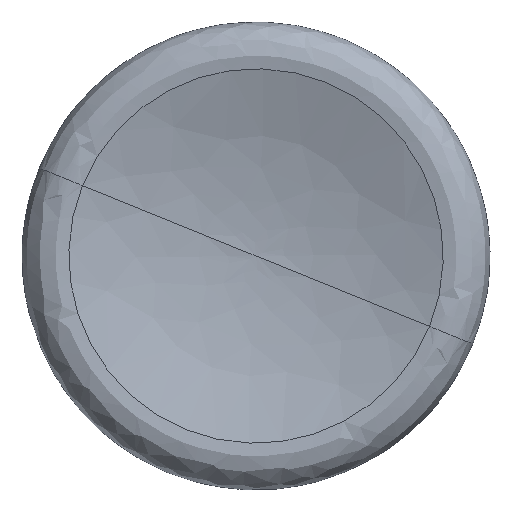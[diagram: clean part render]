
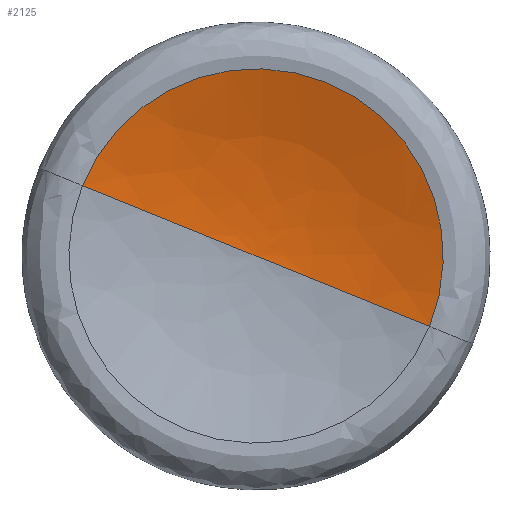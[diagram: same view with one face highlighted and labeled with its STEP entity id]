
A CAD part, front view. The second image highlights one B-rep face of the part: STEP entity #2125.
In plain terms, the highlighted free-form (B-spline) face has degree [3, 3] with [4, 4] control points.
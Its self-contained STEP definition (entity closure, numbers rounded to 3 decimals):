
#19 = CARTESIAN_POINT ( 'NONE',  ( -111.194, -124.764, 45.12 ) ) ;
#272 =( BOUNDED_SURFACE ( )  B_SPLINE_SURFACE ( 3, 3, ( 
 ( #2829, #1080, #2603, #2552 ),
 ( #3001, #2917, #3688, #2534 ),
 ( #1169, #1180, #2798, #2845 ),
 ( #1268, #1297, #3029, #3048 ) ),
 .UNSPECIFIED., .F., .F., .F. ) 
 B_SPLINE_SURFACE_WITH_KNOTS ( ( 4, 4 ),
 ( 4, 4 ),
 ( 0.854, 1. ),
 ( 0., 1. ),
 .UNSPECIFIED. ) 
 GEOMETRIC_REPRESENTATION_ITEM ( )  RATIONAL_B_SPLINE_SURFACE ( (
 ( 0.75, 0.25, 0.25, 0.75),
 ( 0.819, 0.273, 0.273, 0.819),
 ( 0.902, 0.301, 0.301, 0.902),
 ( 1., 0.333, 0.333, 1.) ) ) 
 REPRESENTATION_ITEM ( '' )  SURFACE ( )  );
#297 = VERTEX_POINT ( 'NONE', #1287 ) ;
#1080 = CARTESIAN_POINT ( 'NONE',  ( -20.954, -124.764, 267.509 ) ) ;
#1169 = CARTESIAN_POINT ( 'NONE',  ( -36.092, -104.176, 14.645 ) ) ;
#1180 = CARTESIAN_POINT ( 'NONE',  ( -6.801, -104.176, 86.829 ) ) ;
#1268 = CARTESIAN_POINT ( 'NONE',  ( 0., -104.176, 0. ) ) ;
#1287 = CARTESIAN_POINT ( 'NONE',  ( 0., -104.176, 0. ) ) ;
#1297 = CARTESIAN_POINT ( 'NONE',  ( 0., -104.176, 0. ) ) ;
#1546 = CARTESIAN_POINT ( 'NONE',  ( 0., -104.176, 0. ) ) ;
#1855 = CARTESIAN_POINT ( 'NONE',  ( -36.092, -104.176, 14.645 ) ) ;
#1877 = DIRECTION ( 'NONE',  ( 0., 1., 0. ) ) ;
#1963 = EDGE_LOOP ( 'NONE', ( #3049, #3839, #3600 ) ) ;
#2125 = ADVANCED_FACE ( 'NONE', ( #2194 ), #272, .T. ) ;
#2181 = EDGE_CURVE ( 'NONE', #2447, #4490, #3738, .T. ) ;
#2194 = FACE_OUTER_BOUND ( 'NONE', #1963, .T. ) ;
#2253 = CARTESIAN_POINT ( 'NONE',  ( 111.194, -124.764, -45.12 ) ) ;
#2262 = AXIS2_PLACEMENT_3D ( 'NONE', #2513, #1877, #2779 ) ;
#2405 = EDGE_CURVE ( 'NONE', #2447, #297, #4177, .T. ) ;
#2434 =( BOUNDED_CURVE ( )  B_SPLINE_CURVE ( 3, ( #2253, #3414, #3776, #1546 ),
 .UNSPECIFIED., .F., .T. ) 
 B_SPLINE_CURVE_WITH_KNOTS ( ( 4, 4 ),
 ( 0.854, 1. ),
 .UNSPECIFIED. ) 
 CURVE ( )  GEOMETRIC_REPRESENTATION_ITEM ( )  RATIONAL_B_SPLINE_CURVE ( ( 0.75, 0.819, 0.902, 1. ) ) 
 REPRESENTATION_ITEM ( '' )  );
#2447 = VERTEX_POINT ( 'NONE', #3608 ) ;
#2513 = CARTESIAN_POINT ( 'NONE',  ( 0., -124.764, 0. ) ) ;
#2534 = CARTESIAN_POINT ( 'NONE',  ( 73.704, -110.46, -29.908 ) ) ;
#2552 = CARTESIAN_POINT ( 'NONE',  ( 111.194, -124.764, -45.12 ) ) ;
#2603 = CARTESIAN_POINT ( 'NONE',  ( 201.435, -124.764, 177.268 ) ) ;
#2779 = DIRECTION ( 'NONE',  ( -0.927, 0., 0.376 ) ) ;
#2798 = CARTESIAN_POINT ( 'NONE',  ( 65.382, -104.176, 57.538 ) ) ;
#2829 = CARTESIAN_POINT ( 'NONE',  ( -111.194, -124.764, 45.12 ) ) ;
#2845 = CARTESIAN_POINT ( 'NONE',  ( 36.092, -104.176, -14.645 ) ) ;
#2917 = CARTESIAN_POINT ( 'NONE',  ( -13.889, -110.46, 177.317 ) ) ;
#3001 = CARTESIAN_POINT ( 'NONE',  ( -73.704, -110.46, 29.908 ) ) ;
#3029 = CARTESIAN_POINT ( 'NONE',  ( 0., -104.176, 0. ) ) ;
#3048 = CARTESIAN_POINT ( 'NONE',  ( 0., -104.176, 0. ) ) ;
#3049 = ORIENTED_EDGE ( 'NONE', *, *, #2181, .F. ) ;
#3380 = CARTESIAN_POINT ( 'NONE',  ( 0., -104.176, 0. ) ) ;
#3414 = CARTESIAN_POINT ( 'NONE',  ( 73.704, -110.46, -29.908 ) ) ;
#3600 = ORIENTED_EDGE ( 'NONE', *, *, #4535, .F. ) ;
#3608 = CARTESIAN_POINT ( 'NONE',  ( -111.194, -124.764, 45.12 ) ) ;
#3688 = CARTESIAN_POINT ( 'NONE',  ( 133.52, -110.46, 117.501 ) ) ;
#3738 = CIRCLE ( 'NONE', #2262, 120. ) ;
#3759 = CARTESIAN_POINT ( 'NONE',  ( 111.194, -124.764, -45.12 ) ) ;
#3776 = CARTESIAN_POINT ( 'NONE',  ( 36.092, -104.176, -14.645 ) ) ;
#3839 = ORIENTED_EDGE ( 'NONE', *, *, #2405, .T. ) ;
#4177 =( BOUNDED_CURVE ( )  B_SPLINE_CURVE ( 3, ( #19, #4614, #1855, #3380 ),
 .UNSPECIFIED., .F., .F. ) 
 B_SPLINE_CURVE_WITH_KNOTS ( ( 4, 4 ),
 ( 0.854, 1. ),
 .UNSPECIFIED. ) 
 CURVE ( )  GEOMETRIC_REPRESENTATION_ITEM ( )  RATIONAL_B_SPLINE_CURVE ( ( 0.75, 0.819, 0.902, 1. ) ) 
 REPRESENTATION_ITEM ( '' )  );
#4490 = VERTEX_POINT ( 'NONE', #3759 ) ;
#4535 = EDGE_CURVE ( 'NONE', #4490, #297, #2434, .T. ) ;
#4614 = CARTESIAN_POINT ( 'NONE',  ( -73.704, -110.46, 29.908 ) ) ;
